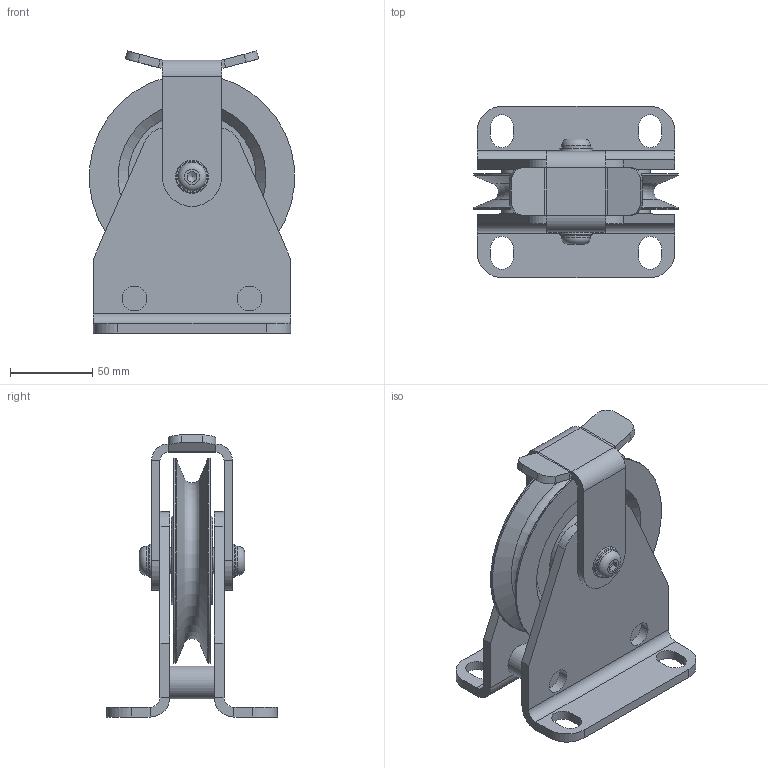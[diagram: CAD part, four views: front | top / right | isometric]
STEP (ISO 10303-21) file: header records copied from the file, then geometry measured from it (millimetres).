
FILE_DESCRIPTION(/* description */ ('Seilrollenbock Seilniederhalter ø125 Stahl Gleitlager komplett'),/* implementation_level */ '2;1');
FILE_NAME(/* name */ 'Z:\Workspace\03 Seilrollen\1.406 Seilrollenbock Seilniederhalter Gleitlager\1.406.04 Seilrollenbock Seilniederhalter ø125 Stahl Gleitlager\1.406.04 Seilrollenbock Seilniederhalter ø125 Stahl Gleitlager komplett.stp',/* time_stamp */ '2021-10-07T14:38:09+02:00',/* author */ ('cad-user'),/* organization */ (''),/* preprocessor_version */ 'ST-DEVELOPER v18',/* originating_system */ 'Autodesk Inventor 2020',/* authorisation */ '');
FILE_SCHEMA (('AUTOMOTIVE_DESIGN { 1 0 10303 214 3 1 1 }'));
Length unit declared in the file: millimetre
Products named in the file (11): 1.406.04 Seilrollenbock Seilniederhalter ø125 Stahl Gleitlager ko
mplett; 1.405.04.01 Seilrollenbock Schweißteil; 1.405.04.01 Blech; 1.405.04.01 Distanzachse; 1.401.04 Seilrolle ø125 Buchse komplett; 1.401.04 Seilrolle ø125 Buchse; Lagerbuchse 1625-DU; 1.405.03.02 Achse; DIN 125-1 - B 10,5; 1.406.04.03 Seilniederhalter ø125; ISO 7380 - M10 x 25
Assembly tree (14 placements, depth 3):
  1.406.04 Seilrollenbock Seilniederhalter ø125 Stahl Gleitlager ko
mplett
    1.405.04.01 Seilrollenbock Schweißteil
      1.405.04.01 Blech  x2
      1.405.04.01 Distanzachse  x2
    1.401.04 Seilrolle ø125 Buchse komplett
      1.401.04 Seilrolle ø125 Buchse
      Lagerbuchse 1625-DU
    1.405.03.02 Achse
    DIN 125-1 - B 10,5  x2
    1.406.04.03 Seilniederhalter ø125
    ISO 7380 - M10 x 25  x2
Bounding box: 124.54 x 104 x 171.52 mm (x, y, z)
Volume: 409104.4 mm3; surface area: 143589.5 mm2
Topology: 12 solids, 12 shells, 185 faces, 441 edges, 284 vertices
Faces by surface type: plane 100, cylinder 62, cone 16, torus 7
Full cylindrical faces by diameter (mm): 8.376 x1, 10 x2, 10.4 x2, 10.5 x2, 12.6 x2, 15 x4, 16 x1, 17.5 x2, 18 x1, 20 x4, 55 x2, 125 x2
Entity records: 4271 total; most frequent: DIRECTION 753, CARTESIAN_POINT 685, ORIENTED_EDGE 618, EDGE_CURVE 309, AXIS2_PLACEMENT_3D 299, VERTEX_POINT 198, EDGE_LOOP 157, LINE 155
